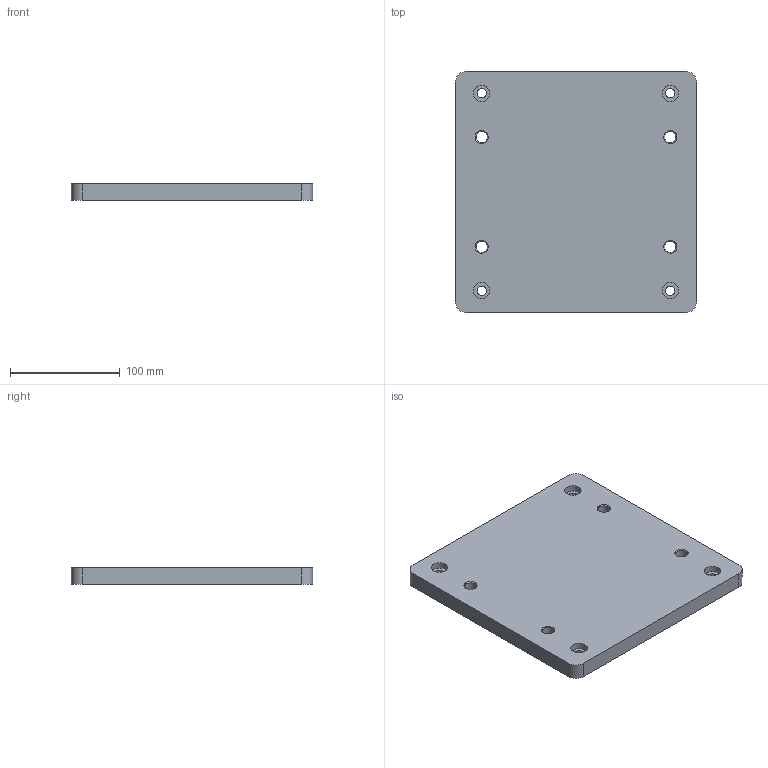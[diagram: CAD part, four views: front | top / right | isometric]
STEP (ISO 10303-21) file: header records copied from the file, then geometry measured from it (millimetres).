
FILE_DESCRIPTION(/* description */ (''),/* implementation_level */ '2;1');
FILE_NAME(/* name */ 'TRAYLOADER.57.1.stp',/* time_stamp */ '2025-05-12T16:03:15+02:00',/* author */ (''),/* organization */ (''),/* preprocessor_version */ 'ST-DEVELOPER v19.4',/* originating_system */ 'SIEMENS PLM Software NX2306.5001',/* authorisation */ '');
FILE_SCHEMA (('AP203_CONFIGURATION_CONTROLLED_3D_DESIGN_OF_MECHANICAL_PARTS_AND_ASSEMBLIES_MIM_LF { 1 0 10303 403 2 1 2}'));
Length unit declared in the file: millimetre
Products named in the file (1): TRAYLOADER.57.1_objects
Bounding box: 220 x 220 x 15 mm (x, y, z)
Volume: 713330.4 mm3; surface area: 112362.7 mm2
Topology: 1 solids, 1 shells, 34 faces, 84 edges, 56 vertices
Faces by surface type: cylinder 16, plane 10, cone 8
Full cylindrical faces by diameter (mm): 8.5 x4, 10.3 x4, 15 x4
Entity records: 974 total; most frequent: DIRECTION 166, CARTESIAN_POINT 139, ORIENTED_EDGE 112, AXIS2_PLACEMENT_3D 75, EDGE_LOOP 74, FACE_BOUND 66, EDGE_CURVE 56, VERTEX_POINT 48
